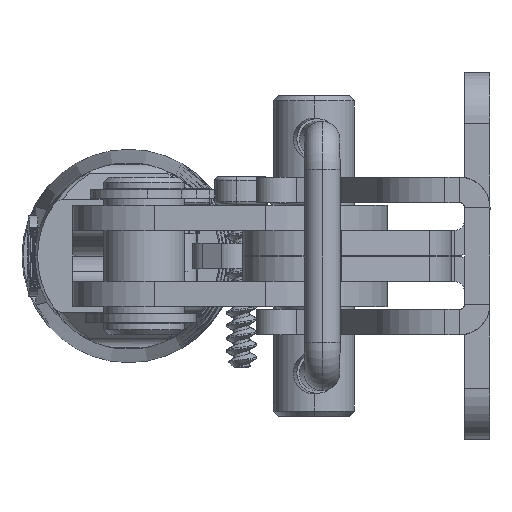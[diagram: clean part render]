
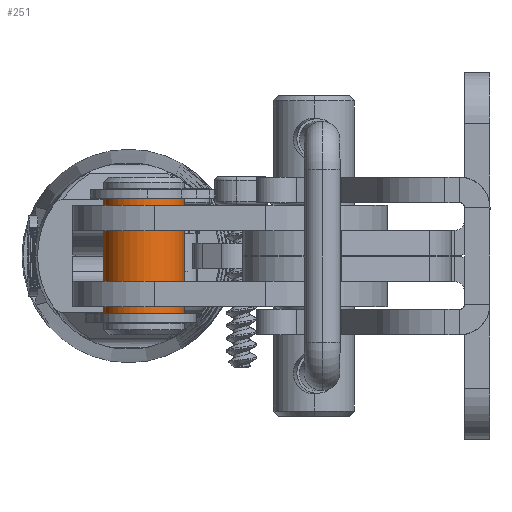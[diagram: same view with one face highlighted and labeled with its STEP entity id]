
A CAD part, left-side view. The second image highlights one B-rep face of the part: STEP entity #251.
In plain terms, the highlighted cylindrical face has radius 4 mm (diameter 8 mm), a partial arc.
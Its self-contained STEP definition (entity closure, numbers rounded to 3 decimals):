
#251 = ADVANCED_FACE ( 'NONE', ( #8566 ), #2334, .T. ) ;
#1875 = DIRECTION ( 'NONE',  ( 0., 0., 1. ) ) ;
#2013 = AXIS2_PLACEMENT_3D ( 'NONE', #23473, #15106, #19238 ) ;
#2334 = CYLINDRICAL_SURFACE ( 'NONE', #2013, 4. ) ;
#2529 = LINE ( 'NONE', #25946, #14155 ) ;
#2534 = EDGE_CURVE ( 'NONE', #18110, #18217, #5973, .T. ) ;
#5229 = CARTESIAN_POINT ( 'NONE',  ( 0., -4., 5.7 ) ) ;
#5528 = ORIENTED_EDGE ( 'NONE', *, *, #8431, .F. ) ;
#5917 = DIRECTION ( 'NONE',  ( 0., 0., 1. ) ) ;
#5973 = CIRCLE ( 'NONE', #14566, 4. ) ;
#7708 = AXIS2_PLACEMENT_3D ( 'NONE', #12421, #23210, #22798 ) ;
#7821 = VECTOR ( 'NONE', #5917, 1000. ) ;
#8053 = ORIENTED_EDGE ( 'NONE', *, *, #20516, .T. ) ;
#8120 = ORIENTED_EDGE ( 'NONE', *, *, #25682, .F. ) ;
#8431 = EDGE_CURVE ( 'NONE', #18110, #10529, #2529, .T. ) ;
#8566 = FACE_OUTER_BOUND ( 'NONE', #11240, .T. ) ;
#10529 = VERTEX_POINT ( 'NONE', #17657 ) ;
#10535 = DIRECTION ( 'NONE',  ( 0., -1., 0. ) ) ;
#10798 = CARTESIAN_POINT ( 'NONE',  ( 0., 0., -5.7 ) ) ;
#11240 = EDGE_LOOP ( 'NONE', ( #5528, #13496, #8053, #8120 ) ) ;
#12421 = CARTESIAN_POINT ( 'NONE',  ( 0., 0., 5.7 ) ) ;
#13306 = DIRECTION ( 'NONE',  ( 0., 0., 1. ) ) ;
#13496 = ORIENTED_EDGE ( 'NONE', *, *, #2534, .T. ) ;
#14155 = VECTOR ( 'NONE', #13306, 1000. ) ;
#14566 = AXIS2_PLACEMENT_3D ( 'NONE', #10798, #1875, #10535 ) ;
#14769 = CARTESIAN_POINT ( 'NONE',  ( 0., 4., -5.7 ) ) ;
#14948 = CIRCLE ( 'NONE', #7708, 4. ) ;
#15106 = DIRECTION ( 'NONE',  ( 0., 0., 1. ) ) ;
#17657 = CARTESIAN_POINT ( 'NONE',  ( 0., 4., 5.7 ) ) ;
#18110 = VERTEX_POINT ( 'NONE', #14769 ) ;
#18217 = VERTEX_POINT ( 'NONE', #21849 ) ;
#18610 = VERTEX_POINT ( 'NONE', #5229 ) ;
#19238 = DIRECTION ( 'NONE',  ( 0., -1., 0. ) ) ;
#20516 = EDGE_CURVE ( 'NONE', #18217, #18610, #23080, .T. ) ;
#20687 = CARTESIAN_POINT ( 'NONE',  ( 0., -4., 7.75 ) ) ;
#21849 = CARTESIAN_POINT ( 'NONE',  ( 0., -4., -5.7 ) ) ;
#22798 = DIRECTION ( 'NONE',  ( 0., -1., 0. ) ) ;
#23080 = LINE ( 'NONE', #20687, #7821 ) ;
#23210 = DIRECTION ( 'NONE',  ( 0., 0., 1. ) ) ;
#23473 = CARTESIAN_POINT ( 'NONE',  ( 0., 0., 7.75 ) ) ;
#25682 = EDGE_CURVE ( 'NONE', #10529, #18610, #14948, .T. ) ;
#25946 = CARTESIAN_POINT ( 'NONE',  ( 0., 4., 7.75 ) ) ;
